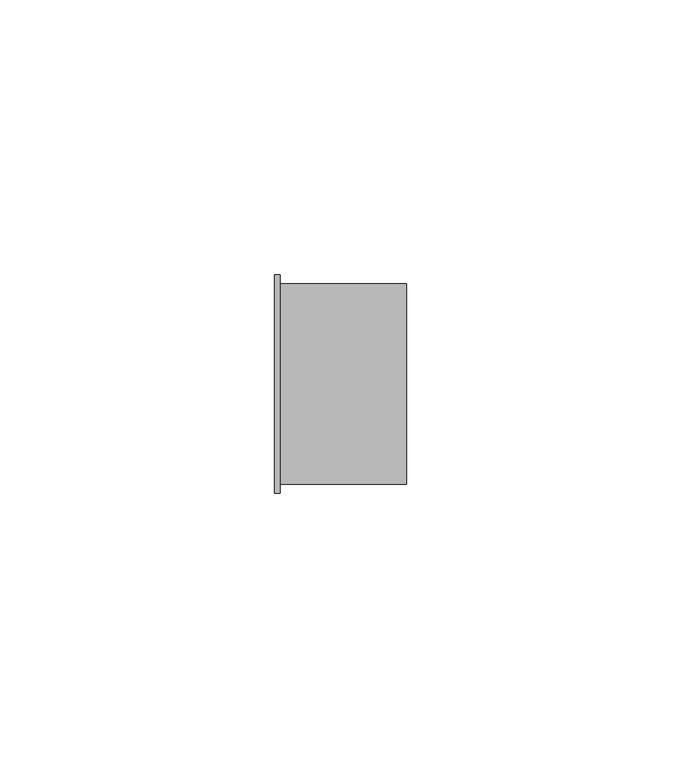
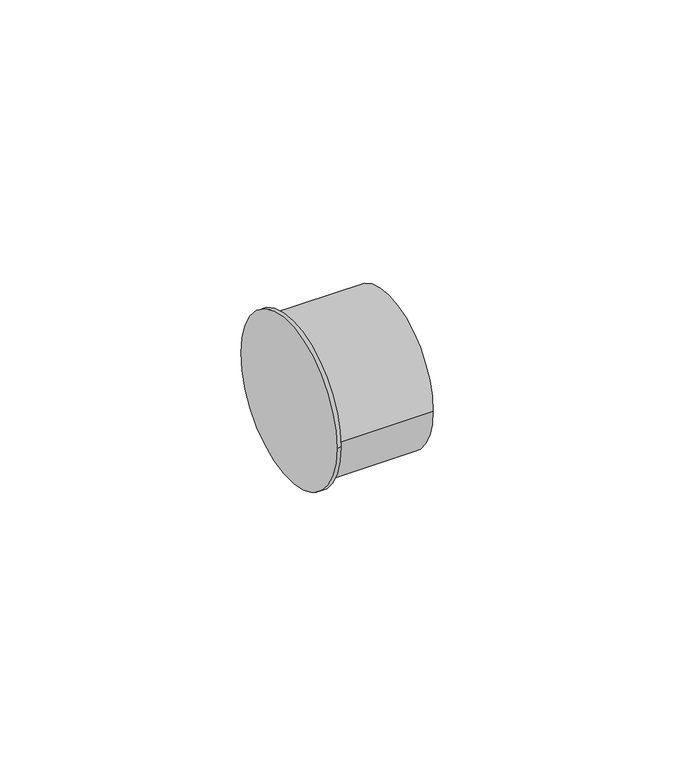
"""IFC4 building model written with IfcOpenShell, lengths in millimetres: pipe fitting geometry, Bucha de redução reta - Soldada - CU : Padrão."""

from ifc_helpers import new_model, si_unit, frame, origin, place, context, project, spatial, circle_curve, source, transform, mapped, element, save
from ifc_brep_helpers import plane_surface, cylinder_surface, advanced_brep


def pipe_fitting_139f5212(model_context):
    return source(origin(), model_context, "Body", "AdvancedBrep", [
        advanced_brep(
        [(0.0, -19.9, 0.0), (0.0, 19.9, 0.0), (1.0, -19.9, 0.0), (1.0, 19.9, 0.0), (1.0, -18.28, 0.0), (1.0, 18.28, 0.0), (24.0, -18.28, 0.0), (24.0, 18.28, 0.0)],
        [
            (0, 1, circle_curve(frame((0.0, 0.0, 0.0), z_axis=(-1.0, 0.0, 0.0), x_axis=(0.0, 1.0, 0.0)), 19.9)),
            (1, 0, circle_curve(frame((0.0, 0.0, 0.0), z_axis=(-1.0, 0.0, 0.0), x_axis=(0.0, 1.0, 0.0)), 19.9)),
            (2, 3, circle_curve(frame((1.0, 0.0, 0.0), z_axis=(1.0, 0.0, 0.0), x_axis=(0.0, 1.0, 0.0)), 19.9)),
            (3, 2, circle_curve(frame((1.0, 0.0, 0.0), z_axis=(1.0, 0.0, 0.0), x_axis=(0.0, 1.0, 0.0)), 19.9)),
            (4, 5, circle_curve(frame((1.0, 0.0, 0.0), z_axis=(-1.0, 0.0, 0.0), x_axis=(0.0, 1.0, 0.0)), 18.28)),
            (5, 4, circle_curve(frame((1.0, 0.0, 0.0), z_axis=(-1.0, 0.0, 0.0), x_axis=(0.0, 1.0, 0.0)), 18.28)),
            (0, 2),
            (3, 1),
            (6, 7, circle_curve(frame((24.0, 0.0, 0.0), z_axis=(1.0, 0.0, 0.0), x_axis=(0.0, 1.0, 0.0)), 18.28)),
            (7, 6, circle_curve(frame((24.0, 0.0, 0.0), z_axis=(1.0, 0.0, 0.0), x_axis=(0.0, 1.0, 0.0)), 18.28)),
            (7, 5),
            (4, 6),
        ],
        [
            plane_surface(frame((0.0, 0.0, 0.0), z_axis=(-1.0, 0.0, 0.0), x_axis=(0.0, 0.0, 1.0))),
            plane_surface(frame((1.0, 0.0, 0.0), z_axis=(1.0, 0.0, 0.0), x_axis=(0.0, 0.0, 1.0))),
            cylinder_surface(frame((0.0, 0.0, 0.0), z_axis=(-1.0, 0.0, 0.0), x_axis=(0.0, 1.0, 0.0)), 19.9),
            plane_surface(frame((24.0, 0.0, 0.0), z_axis=(1.0, 0.0, 0.0), x_axis=(0.0, 0.0, 1.0))),
            cylinder_surface(frame((1.0, 0.0, 0.0), z_axis=(-1.0, 0.0, 0.0), x_axis=(0.0, 1.0, 0.0)), 18.28),
        ],
        [
            (0, [[1, 2]]),
            (1, [[3, 4], [5, 6]]),
            (2, [[-1, 7, -4, 8]]),
            (2, [[-2, -8, -3, -7]]),
            (3, [[9, 10]]),
            (4, [[-10, 11, -5, 12]]),
            (4, [[-9, -12, -6, -11]]),
        ],
    ),
    ])


if __name__ == "__main__":
    model = new_model("IFC4")
    model_context = context("Model", 3, world=origin())
    ifc_project = project(units=[si_unit("LENGTHUNIT", "METRE", prefix="MILLI")], contexts=[model_context])
    site = spatial("IfcSite", under=ifc_project)
    building = spatial("IfcBuilding", under=site)
    placement = place(None, origin())
    pipe_fitting_shape = pipe_fitting_139f5212(model_context)
    element("IfcPipeFitting", 1, ObjectType="Bucha de redução reta - Soldada - CU : Padrão", at=placement, inside=building, context=model_context, shape_type="MappedRepresentation", body=[
        mapped(pipe_fitting_shape, transform((0.0, 0.0, 0.0), x_axis=(1.0, 0.0, 0.0), y_axis=(0.0, 1.0, 0.0), z_axis=(0.0, 0.0, 1.0))),
    ])
    save(model, "model.ifc")
